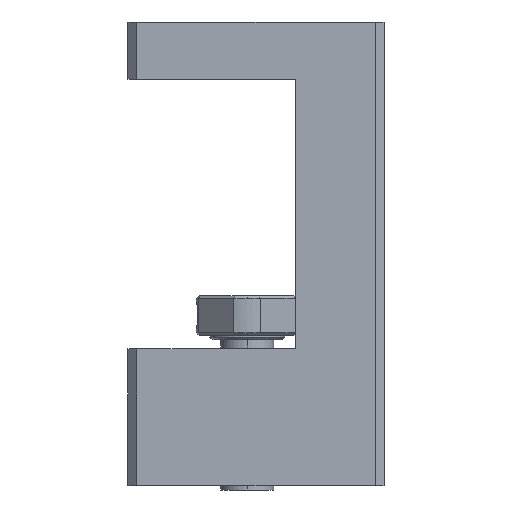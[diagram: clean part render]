
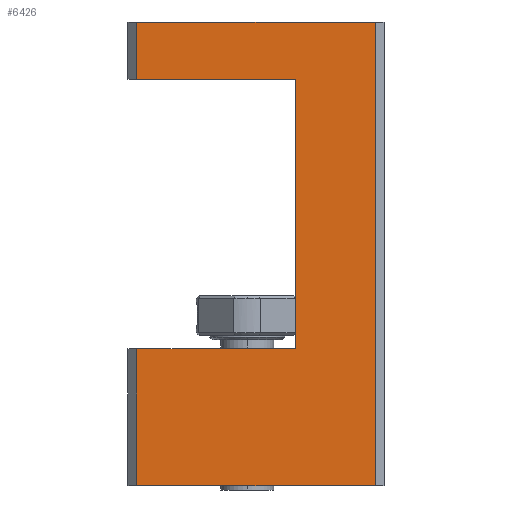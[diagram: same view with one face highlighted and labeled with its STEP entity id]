
A CAD part, left-side view. The second image highlights one B-rep face of the part: STEP entity #6426.
In plain terms, the highlighted planar face has unit normal (-1, 0, 0).
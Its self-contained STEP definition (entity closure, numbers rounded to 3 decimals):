
#20 = DIRECTION ( 'NONE',  ( 0., 0., 1. ) ) ;
#28 = ORIENTED_EDGE ( 'NONE', *, *, #9513, .T. ) ;
#87 = EDGE_CURVE ( 'NONE', #2543, #6855, #5151, .T. ) ;
#584 = EDGE_CURVE ( 'NONE', #5029, #7508, #4973, .T. ) ;
#750 = VECTOR ( 'NONE', #1699, 1000. ) ;
#810 = VERTEX_POINT ( 'NONE', #6116 ) ;
#973 = CARTESIAN_POINT ( 'NONE',  ( -17., -5.5, 15.5 ) ) ;
#1190 = DIRECTION ( 'NONE',  ( 0., 0., -1. ) ) ;
#1346 = CARTESIAN_POINT ( 'NONE',  ( -17., -14.5, 52.5 ) ) ;
#1369 = CARTESIAN_POINT ( 'NONE',  ( -17., 12.5, 46. ) ) ;
#1560 = EDGE_LOOP ( 'NONE', ( #7258, #2331, #3357, #28, #9554, #8151, #5609, #2404 ) ) ;
#1583 = EDGE_CURVE ( 'NONE', #2543, #7508, #2209, .T. ) ;
#1681 = VECTOR ( 'NONE', #6378, 1000. ) ;
#1699 = DIRECTION ( 'NONE',  ( 0., 0., 1. ) ) ;
#2209 = LINE ( 'NONE', #3778, #1681 ) ;
#2263 = CARTESIAN_POINT ( 'NONE',  ( -17., 13.5, 46. ) ) ;
#2331 = ORIENTED_EDGE ( 'NONE', *, *, #6727, .T. ) ;
#2404 = ORIENTED_EDGE ( 'NONE', *, *, #9581, .T. ) ;
#2543 = VERTEX_POINT ( 'NONE', #8891 ) ;
#2627 = DIRECTION ( 'NONE',  ( 0., -1., 0. ) ) ;
#2729 = LINE ( 'NONE', #5958, #6074 ) ;
#2832 = LINE ( 'NONE', #2263, #8100 ) ;
#3357 = ORIENTED_EDGE ( 'NONE', *, *, #3599, .T. ) ;
#3382 = VECTOR ( 'NONE', #20, 1000. ) ;
#3386 = DIRECTION ( 'NONE',  ( 1., 0., 0. ) ) ;
#3599 = EDGE_CURVE ( 'NONE', #9071, #810, #7636, .T. ) ;
#3609 = LINE ( 'NONE', #4427, #6811 ) ;
#3778 = CARTESIAN_POINT ( 'NONE',  ( -17., 13.5, 52.5 ) ) ;
#4427 = CARTESIAN_POINT ( 'NONE',  ( -17., 13.5, 15.5 ) ) ;
#4731 = VECTOR ( 'NONE', #5128, 1000. ) ;
#4937 = FACE_OUTER_BOUND ( 'NONE', #1560, .T. ) ;
#4973 = LINE ( 'NONE', #7344, #750 ) ;
#5029 = VERTEX_POINT ( 'NONE', #5615 ) ;
#5128 = DIRECTION ( 'NONE',  ( 0., 0., -1. ) ) ;
#5151 = LINE ( 'NONE', #6777, #9565 ) ;
#5609 = ORIENTED_EDGE ( 'NONE', *, *, #87, .T. ) ;
#5615 = CARTESIAN_POINT ( 'NONE',  ( -17., -14.5, 0. ) ) ;
#5721 = CARTESIAN_POINT ( 'NONE',  ( -17., 13.5, 52.5 ) ) ;
#5958 = CARTESIAN_POINT ( 'NONE',  ( -17., 13.5, 0. ) ) ;
#6074 = VECTOR ( 'NONE', #2627, 1000. ) ;
#6116 = CARTESIAN_POINT ( 'NONE',  ( -17., 12.5, 0. ) ) ;
#6234 = LINE ( 'NONE', #8366, #3382 ) ;
#6378 = DIRECTION ( 'NONE',  ( 0., -1., 0. ) ) ;
#6426 = ADVANCED_FACE ( 'NONE', ( #4937 ), #7359, .F. ) ;
#6483 = CARTESIAN_POINT ( 'NONE',  ( -17., -5.5, 46. ) ) ;
#6657 = VERTEX_POINT ( 'NONE', #973 ) ;
#6727 = EDGE_CURVE ( 'NONE', #6657, #9071, #3609, .T. ) ;
#6756 = CARTESIAN_POINT ( 'NONE',  ( -17., 12.5, 52.5 ) ) ;
#6777 = CARTESIAN_POINT ( 'NONE',  ( -17., 12.5, 52.5 ) ) ;
#6811 = VECTOR ( 'NONE', #9727, 1000. ) ;
#6855 = VERTEX_POINT ( 'NONE', #1369 ) ;
#6949 = VERTEX_POINT ( 'NONE', #6483 ) ;
#7258 = ORIENTED_EDGE ( 'NONE', *, *, #8010, .F. ) ;
#7344 = CARTESIAN_POINT ( 'NONE',  ( -17., -14.5, 52.5 ) ) ;
#7359 = PLANE ( 'NONE',  #8622 ) ;
#7508 = VERTEX_POINT ( 'NONE', #1346 ) ;
#7636 = LINE ( 'NONE', #6756, #4731 ) ;
#8010 = EDGE_CURVE ( 'NONE', #6657, #6949, #6234, .T. ) ;
#8100 = VECTOR ( 'NONE', #8405, 1000. ) ;
#8151 = ORIENTED_EDGE ( 'NONE', *, *, #1583, .F. ) ;
#8366 = CARTESIAN_POINT ( 'NONE',  ( -17., -5.5, 52.5 ) ) ;
#8405 = DIRECTION ( 'NONE',  ( 0., -1., 0. ) ) ;
#8622 = AXIS2_PLACEMENT_3D ( 'NONE', #5721, #3386, #9688 ) ;
#8891 = CARTESIAN_POINT ( 'NONE',  ( -17., 12.5, 52.5 ) ) ;
#9071 = VERTEX_POINT ( 'NONE', #9926 ) ;
#9513 = EDGE_CURVE ( 'NONE', #810, #5029, #2729, .T. ) ;
#9554 = ORIENTED_EDGE ( 'NONE', *, *, #584, .T. ) ;
#9565 = VECTOR ( 'NONE', #1190, 1000. ) ;
#9581 = EDGE_CURVE ( 'NONE', #6855, #6949, #2832, .T. ) ;
#9688 = DIRECTION ( 'NONE',  ( 0., 1., 0. ) ) ;
#9727 = DIRECTION ( 'NONE',  ( 0., 1., 0. ) ) ;
#9926 = CARTESIAN_POINT ( 'NONE',  ( -17., 12.5, 15.5 ) ) ;
